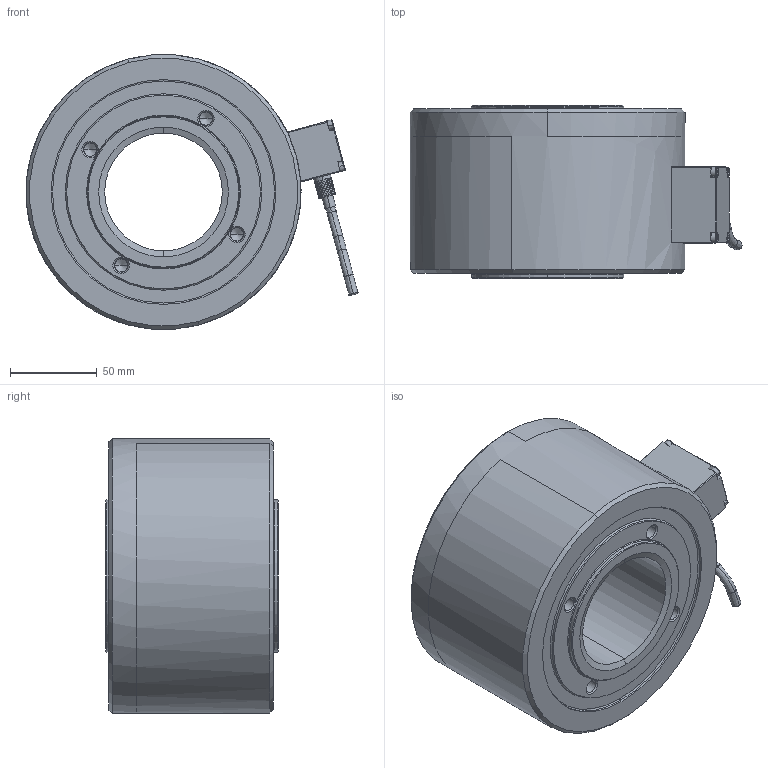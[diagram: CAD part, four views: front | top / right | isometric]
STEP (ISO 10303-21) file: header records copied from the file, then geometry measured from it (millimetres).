
FILE_DESCRIPTION((''),'2;1');
FILE_NAME('C6B_1MN','2018-06-11T',('esche'),(''),'CREO PARAMETRIC BY PTC INC, 2017170','CREO PARAMETRIC BY PTC INC, 2017170','');
FILE_SCHEMA(('CONFIG_CONTROL_DESIGN'));
Length unit declared in the file: millimetre
Products named in the file (1): C6B_1MN
Bounding box: 191.91 x 100 x 159 mm (x, y, z)
Volume: 1568764.7 mm3; surface area: 112738.4 mm2
Topology: 1 solids, 2 shells, 277 faces, 648 edges, 380 vertices
Faces by surface type: bspline 277
Entity records: 13306 total; most frequent: CARTESIAN_POINT 6417, ORIENTED_EDGE 1256, DIRECTION 866, EDGE_CURVE 628, VERTEX_POINT 380, VECTOR 322, LINE 322, EDGE_LOOP 306
